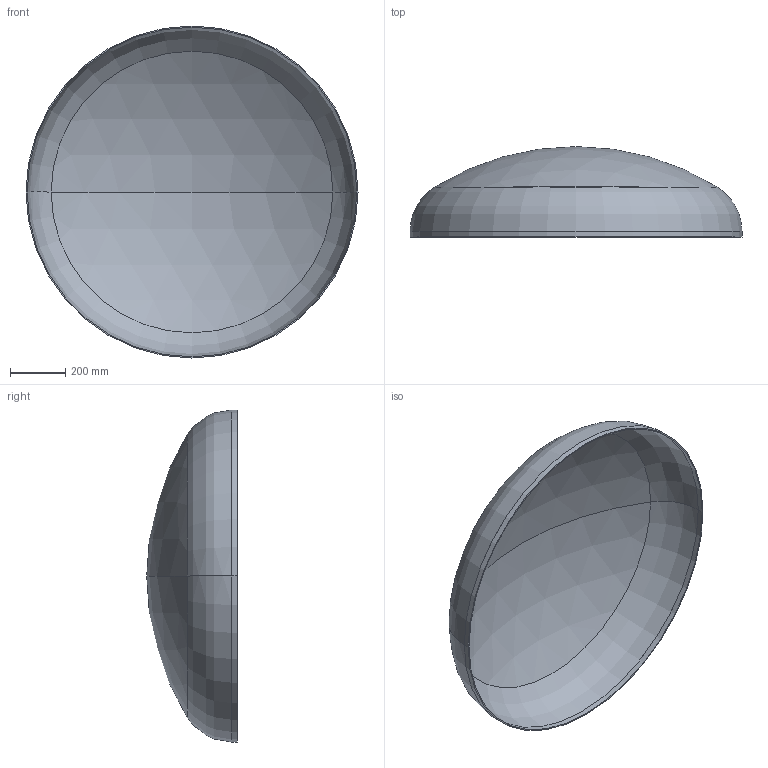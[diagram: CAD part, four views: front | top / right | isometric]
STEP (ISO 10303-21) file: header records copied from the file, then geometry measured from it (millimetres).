
FILE_DESCRIPTION (( 'STEP AP203' ), '1' );
FILE_NAME ('DIN 28013 Korbbogenform_-_Boden DIN 28013 - 1200 x 20 - I - s=4.step', '2016-07-01T09:19:04', ( '' ), ( '' ), 'SwSTEP 2.0', 'SolidWorks 2013', '' );
FILE_SCHEMA (( 'CONFIG_CONTROL_DESIGN' ));
Length unit declared in the file: millimetre
Products named in the file (1): DIN 28013 Korbbogenform_-_Boden DIN 28013 - 1200 x 20 - I - s=4
Bounding box: 1200 x 326.96 x 1200 mm (x, y, z)
Volume: 6540273 mm3; surface area: 3285198.1 mm2
Topology: 1 solids, 1 shells, 13 faces, 24 edges, 14 vertices
Faces by surface type: torus 4, cylinder 4, sphere 4, plane 1
Entity records: 407 total; most frequent: DIRECTION 72, CARTESIAN_POINT 52, ORIENTED_EDGE 48, AXIS2_PLACEMENT_3D 34, EDGE_CURVE 24, CIRCLE 20, VERTEX_POINT 14, EDGE_LOOP 14
